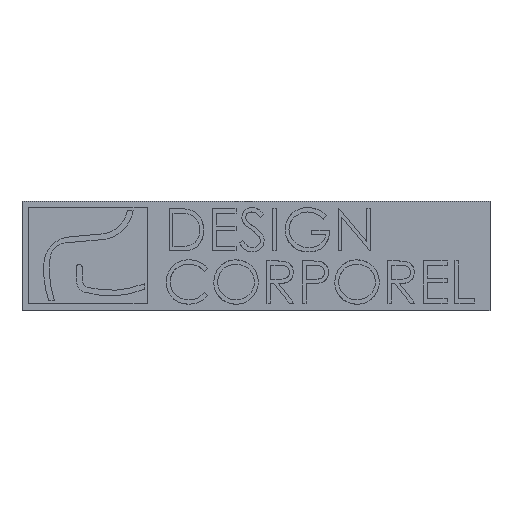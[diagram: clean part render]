
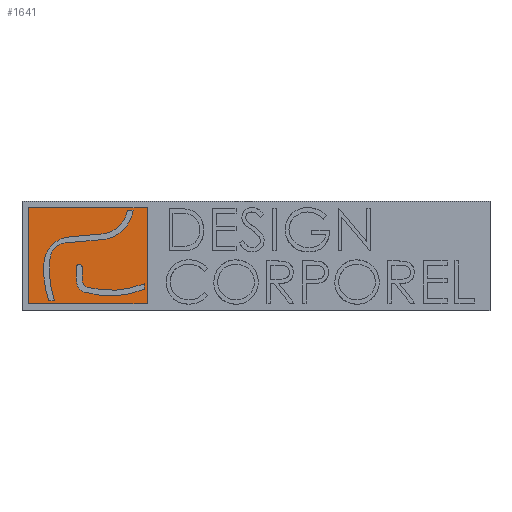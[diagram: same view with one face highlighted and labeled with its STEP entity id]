
A CAD part, top view. The second image highlights one B-rep face of the part: STEP entity #1641.
In plain terms, the highlighted planar face has unit normal (0, 0, 1).
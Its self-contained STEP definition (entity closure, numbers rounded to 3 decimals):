
#1641 = ADVANCED_FACE ( 'NONE', ( #11093 ), #7178, .F. ) ;
#2034 = VERTEX_POINT ( 'NONE', #9244 ) ;
#2035 = VERTEX_POINT ( 'NONE', #9245 ) ;
#2524 = VERTEX_POINT ( 'NONE', #9964 ) ;
#2657 = VERTEX_POINT ( 'NONE', #9820 ) ;
#2866 = ORIENTED_EDGE ( 'NONE', *, *, #3907, .F. ) ;
#2867 = ORIENTED_EDGE ( 'NONE', *, *, #4023, .F. ) ;
#2868 = ORIENTED_EDGE ( 'NONE', *, *, #4019, .F. ) ;
#2869 = ORIENTED_EDGE ( 'NONE', *, *, #5793, .F. ) ;
#3042 = LINE ( 'NONE', #8041, #3043 ) ;
#3043 = VECTOR ( 'NONE', #8040, 1000. ) ;
#3307 = VECTOR ( 'NONE', #4380, 1000. ) ;
#3313 = LINE ( 'NONE', #4420, #3314 ) ;
#3314 = VECTOR ( 'NONE', #4419, 1000. ) ;
#3318 = LINE ( 'NONE', #4381, #3307 ) ;
#3655 = AXIS2_PLACEMENT_3D ( 'NONE', #7182, #7174, #7171 ) ;
#3907 = EDGE_CURVE ( 'NONE', #2524, #2657, #8537, .T. ) ;
#4019 = EDGE_CURVE ( 'NONE', #2035, #2034, #3313, .T. ) ;
#4023 = EDGE_CURVE ( 'NONE', #2034, #2524, #3318, .T. ) ;
#4380 = DIRECTION ( 'NONE',  ( 1., 0., 0. ) ) ;
#4381 = CARTESIAN_POINT ( 'NONE',  ( 170.471, 129.407, 7. ) ) ;
#4419 = DIRECTION ( 'NONE',  ( 0., 1., 0. ) ) ;
#4420 = CARTESIAN_POINT ( 'NONE',  ( 96.971, 129.407, 7. ) ) ;
#5793 = EDGE_CURVE ( 'NONE', #2657, #2035, #3042, .T. ) ;
#7171 = DIRECTION ( 'NONE',  ( -1., 0., 0. ) ) ;
#7174 = DIRECTION ( 'NONE',  ( 0., 0., -1. ) ) ;
#7178 = PLANE ( 'NONE',  #3655 ) ;
#7182 = CARTESIAN_POINT ( 'NONE',  ( 133.721, 99.657, 7. ) ) ;
#8040 = DIRECTION ( 'NONE',  ( -1., 0., 0. ) ) ;
#8041 = CARTESIAN_POINT ( 'NONE',  ( 96.971, 69.907, 7. ) ) ;
#8532 = VECTOR ( 'NONE', #12502, 1000. ) ;
#8537 = LINE ( 'NONE', #12503, #8532 ) ;
#9244 = CARTESIAN_POINT ( 'NONE',  ( 96.971, 129.407, 7. ) ) ;
#9245 = CARTESIAN_POINT ( 'NONE',  ( 96.971, 69.907, 7. ) ) ;
#9820 = CARTESIAN_POINT ( 'NONE',  ( 170.471, 69.907, 7. ) ) ;
#9964 = CARTESIAN_POINT ( 'NONE',  ( 170.471, 129.407, 7. ) ) ;
#10803 = EDGE_LOOP ( 'NONE', ( #2866, #2867, #2868, #2869 ) ) ;
#11093 = FACE_OUTER_BOUND ( 'NONE', #10803, .T. ) ;
#12502 = DIRECTION ( 'NONE',  ( 0., -1., 0. ) ) ;
#12503 = CARTESIAN_POINT ( 'NONE',  ( 170.471, 69.907, 7. ) ) ;
